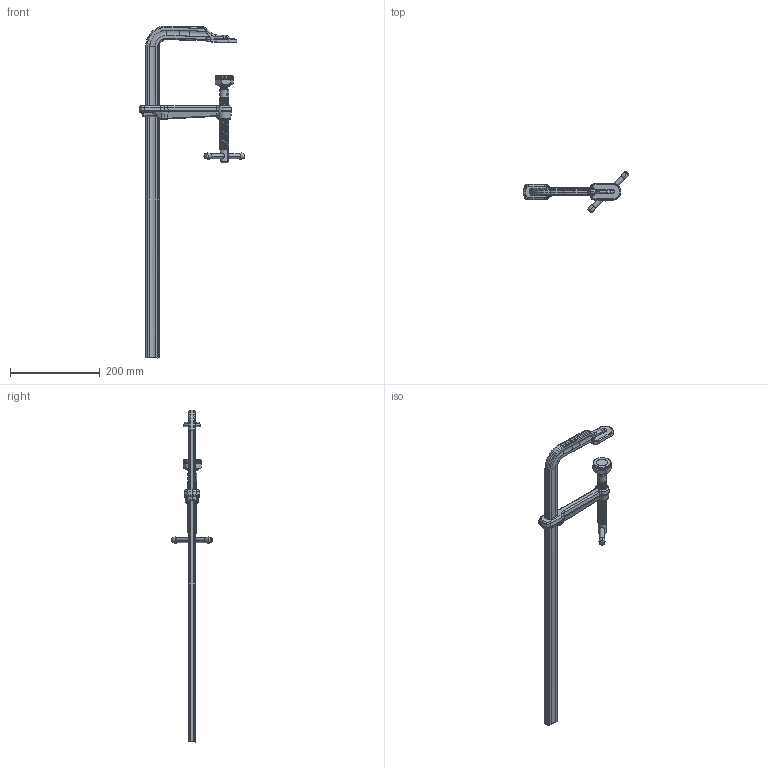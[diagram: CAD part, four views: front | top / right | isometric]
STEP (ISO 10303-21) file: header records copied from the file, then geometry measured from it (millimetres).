
FILE_DESCRIPTION( ( 'STEP AP214' ), '1' );
FILE_NAME( 'X:/CAD_Daten_Platzhalter/GSM60_CSG60/GSM60_CSG60.stp', ' ', ( ' ' ), ( ' ' ), 'PSStep 11.0', ' ', ' ' );
FILE_SCHEMA( ( 'AUTOMOTIVE_DESIGN { 1 0 10303 214 1 1 1 1 }' ) );
Length unit declared in the file: metre
Products named in the file (12): 1; 2; 3; 4; 5; 6; 7; 8; 9; 10; 11; 12
Bounding box: 235.33 x 91.11 x 739.92 mm (x, y, z)
Volume: 147143.4 mm3; surface area: 139308.1 mm2
Topology: 4 solids, 316 shells, 528 faces, 2027 edges, 1787 vertices
Faces by surface type: bspline 528
Entity records: 50734 total; most frequent: CARTESIAN_POINT 37007, ORIENTED_EDGE 2524, EDGE_CURVE 1999, VERTEX_POINT 1787, B_SPLINE_CURVE_WITH_KNOTS 1256, EDGE_LOOP 543, STYLED_ITEM 528, PRESENTATION_STYLE_ASSIGNMENT 528
